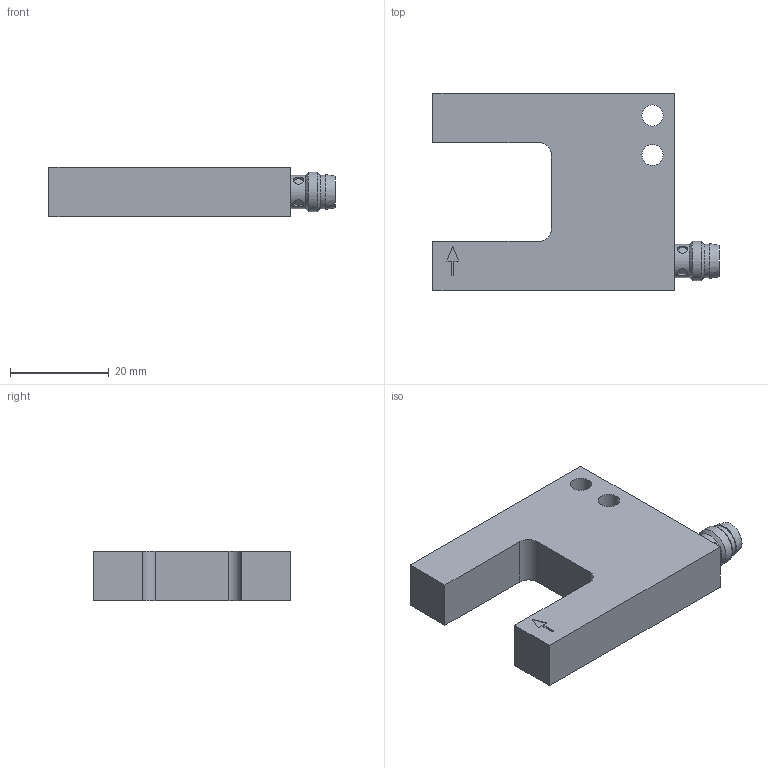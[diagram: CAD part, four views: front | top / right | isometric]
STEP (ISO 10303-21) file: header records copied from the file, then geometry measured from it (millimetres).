
FILE_DESCRIPTION(/* description */ (''),/* implementation_level */ '2;1');
FILE_NAME(/* name */ 'C:\#Vault-WorkDir\Konstruktions-Dokumente\Projekte\FGL\153-00264_FGL 20-R-PSM3.stp',/* time_stamp */ '2019-02-13T11:56:16+01:00',/* author */ ('SensoPart'),/* organization */ ('SensoPart'),/* preprocessor_version */ 'ST-DEVELOPER v17',/* originating_system */ 'Autodesk Inventor 2018',/* authorisation */ ' ');
FILE_SCHEMA (('AUTOMOTIVE_DESIGN { 1 0 10303 214 3 1 1 }'));
Length unit declared in the file: millimetre
Products named in the file (1): GH-ENG-0027918
Bounding box: 58 x 40 x 10 mm (x, y, z)
Volume: 14751 mm3; surface area: 5790.1 mm2
Topology: 1 solids, 1 shells, 64 faces, 145 edges, 97 vertices
Faces by surface type: plane 35, cylinder 23, cone 3, sphere 3
Full cylindrical faces by diameter (mm): 1 x3, 2 x4, 4 x2, 4.3 x2, 5.8 x1, 6.773 x2, 8 x3
Entity records: 1964 total; most frequent: CARTESIAN_POINT 444, DIRECTION 315, ORIENTED_EDGE 284, EDGE_CURVE 142, AXIS2_PLACEMENT_3D 116, VERTEX_POINT 97, EDGE_LOOP 85, LINE 83
